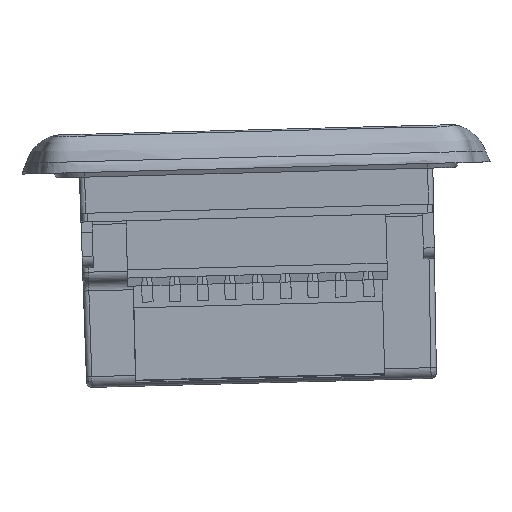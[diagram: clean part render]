
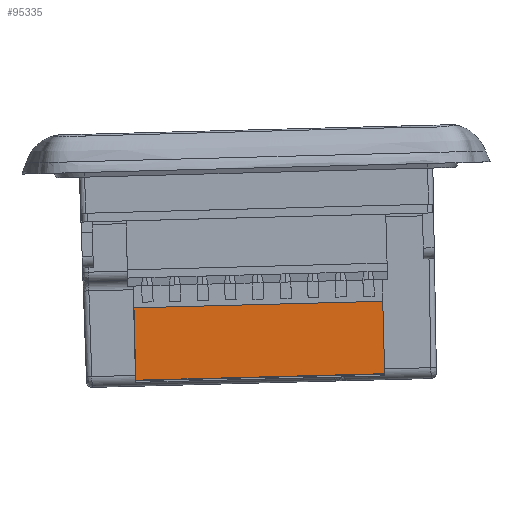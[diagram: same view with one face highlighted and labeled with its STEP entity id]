
A CAD part, left-side view. The second image highlights one B-rep face of the part: STEP entity #95335.
In plain terms, the highlighted planar face has unit normal (-1, -0.004, 0) as drawn and (-1, 0, 0) by its records, which use the part's own axes.
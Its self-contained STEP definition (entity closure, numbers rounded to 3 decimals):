
#85089=DIRECTION('',(0.,-1.,0.));
#85090=VECTOR('',#85089,13.3);
#85091=CARTESIAN_POINT('',(-5.9,12.6,0.));
#85092=LINE('',#85091,#85090);
#87072=DIRECTION('',(0.,-1.,0.));
#87073=VECTOR('',#87072,13.3);
#87074=CARTESIAN_POINT('',(-5.9,12.6,45.72));
#87075=LINE('',#87074,#87073);
#87076=DIRECTION('',(0.,0.,-1.));
#87077=VECTOR('',#87076,45.72);
#87078=CARTESIAN_POINT('',(-5.9,-0.7,45.72));
#87079=LINE('',#87078,#87077);
#87080=DIRECTION('',(0.,0.,-1.));
#87081=VECTOR('',#87080,45.72);
#87082=CARTESIAN_POINT('',(-5.9,12.6,45.72));
#87083=LINE('',#87082,#87081);
#91139=CARTESIAN_POINT('',(-5.9,12.6,0.));
#91140=VERTEX_POINT('',#91139);
#91141=CARTESIAN_POINT('',(-5.9,-0.7,0.));
#91142=VERTEX_POINT('',#91141);
#91881=CARTESIAN_POINT('',(-5.9,-0.7,45.72));
#91882=VERTEX_POINT('',#91881);
#91883=CARTESIAN_POINT('',(-5.9,12.6,45.72));
#91884=VERTEX_POINT('',#91883);
#95323=CARTESIAN_POINT('',(-5.9,12.6,10.16));
#95324=DIRECTION('',(1.,0.,0.));
#95325=DIRECTION('',(0.,-1.,0.));
#95326=AXIS2_PLACEMENT_3D('',#95323,#95324,#95325);
#95327=PLANE('',#95326);
#95329=ORIENTED_EDGE('',*,*,#95328,.F.);
#95330=ORIENTED_EDGE('',*,*,#95092,.T.);
#95331=ORIENTED_EDGE('',*,*,#95315,.T.);
#95332=ORIENTED_EDGE('',*,*,#93149,.F.);
#95333=EDGE_LOOP('',(#95329,#95330,#95331,#95332));
#95334=FACE_OUTER_BOUND('',#95333,.F.);
#95335=ADVANCED_FACE('',(#95334),#95327,.F.);
#93149=EDGE_CURVE('',#91140,#91142,#85092,.T.);
#95092=EDGE_CURVE('',#91884,#91882,#87075,.T.);
#95315=EDGE_CURVE('',#91882,#91142,#87079,.T.);
#95328=EDGE_CURVE('',#91884,#91140,#87083,.T.);
